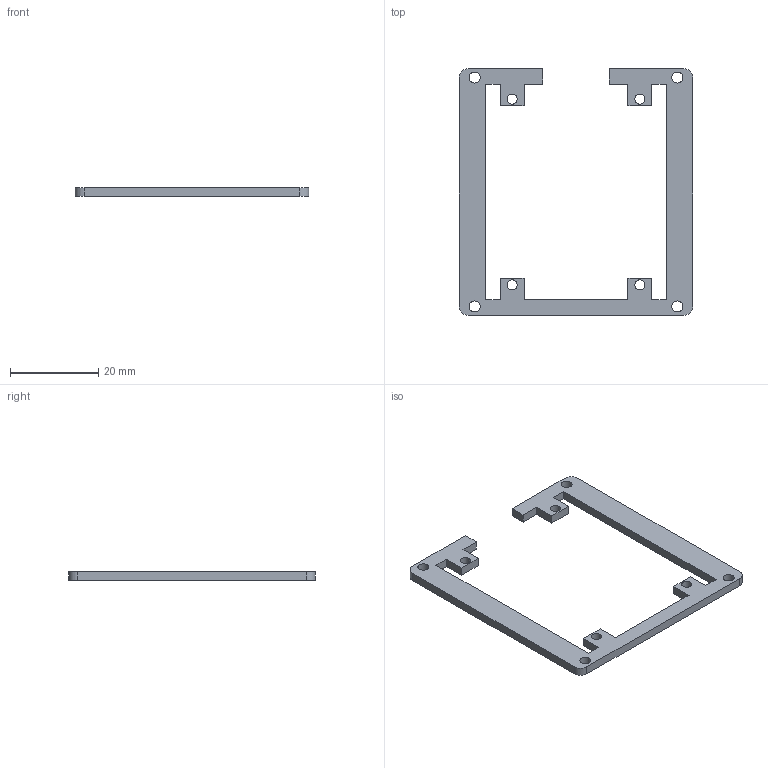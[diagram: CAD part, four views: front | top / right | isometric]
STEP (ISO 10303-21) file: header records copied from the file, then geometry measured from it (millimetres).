
FILE_DESCRIPTION(('Open CASCADE Model'),'2;1');
FILE_NAME('Open CASCADE Shape Model','2026-09-16T15:55:10',('Author'),( 'Open CASCADE'),'Open CASCADE STEP processor 7.9','Open CASCADE 7.9' ,'Unknown');
FILE_SCHEMA(('AUTOMOTIVE_DESIGN { 1 0 10303 214 1 1 1 1 }'));
Length unit declared in the file: millimetre
Products named in the file (1): Open CASCADE STEP translator 7.9 4
Bounding box: 53 x 56 x 2 mm (x, y, z)
Volume: 1945.3 mm3; surface area: 2887.5 mm2
Topology: 1 solids, 1 shells, 42 faces, 120 edges, 80 vertices
Faces by surface type: plane 30, cylinder 12
Full cylindrical faces by diameter (mm): 2.3 x4, 2.5 x4
Entity records: 2980 total; most frequent: CARTESIAN_POINT 653, DIRECTION 400, LINE 262, VECTOR 262, ORIENTED_EDGE 240, PCURVE 240, DEFINITIONAL_REPRESENTATION 240, EDGE_CURVE 120
